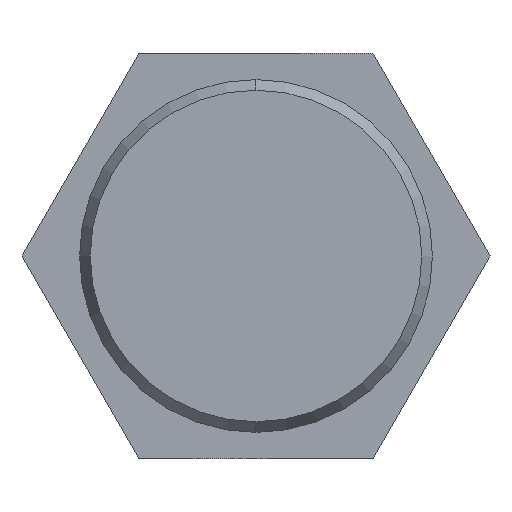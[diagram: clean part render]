
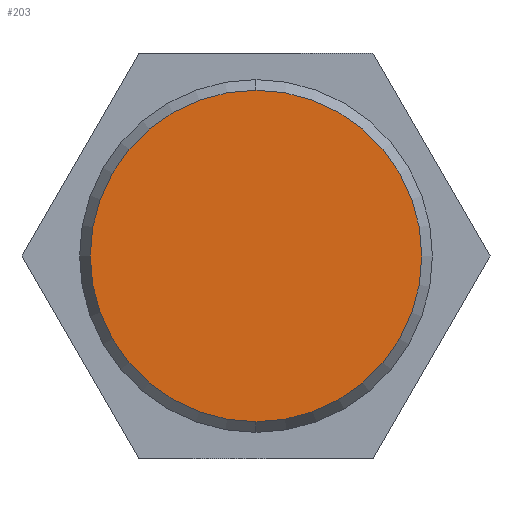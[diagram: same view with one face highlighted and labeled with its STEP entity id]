
A CAD part, left-side view. The second image highlights one B-rep face of the part: STEP entity #203.
In plain terms, the highlighted planar face has unit normal (-1, 0, 0).
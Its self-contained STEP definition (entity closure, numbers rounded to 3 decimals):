
#7 = CARTESIAN_POINT ( 'NONE',  ( 0., 0., 0. ) ) ;
#28 = CARTESIAN_POINT ( 'NONE',  ( 0., 0., 9. ) ) ;
#64 = DIRECTION ( 'NONE',  ( -1., 0., 0. ) ) ;
#83 = DIRECTION ( 'NONE',  ( 0., 0., -1. ) ) ;
#92 = PLANE ( 'NONE',  #590 ) ;
#106 = CARTESIAN_POINT ( 'NONE',  ( 0., 0., 0. ) ) ;
#144 = DIRECTION ( 'NONE',  ( 0., 0., 1. ) ) ;
#163 = CIRCLE ( 'NONE', #504, 9. ) ;
#203 = ADVANCED_FACE ( 'NONE', ( #498 ), #92, .T. ) ;
#214 = ORIENTED_EDGE ( 'NONE', *, *, #491, .F. ) ;
#232 = VERTEX_POINT ( 'NONE', #457 ) ;
#283 = EDGE_LOOP ( 'NONE', ( #353, #214 ) ) ;
#353 = ORIENTED_EDGE ( 'NONE', *, *, #402, .F. ) ;
#374 = DIRECTION ( 'NONE',  ( 1., 0., 0. ) ) ;
#402 = EDGE_CURVE ( 'NONE', #232, #573, #404, .T. ) ;
#404 = CIRCLE ( 'NONE', #426, 9. ) ;
#426 = AXIS2_PLACEMENT_3D ( 'NONE', #106, #374, #83 ) ;
#457 = CARTESIAN_POINT ( 'NONE',  ( 0., 0., -9. ) ) ;
#491 = EDGE_CURVE ( 'NONE', #573, #232, #163, .T. ) ;
#498 = FACE_OUTER_BOUND ( 'NONE', #283, .T. ) ;
#504 = AXIS2_PLACEMENT_3D ( 'NONE', #589, #592, #601 ) ;
#573 = VERTEX_POINT ( 'NONE', #28 ) ;
#589 = CARTESIAN_POINT ( 'NONE',  ( 0., 0., 0. ) ) ;
#590 = AXIS2_PLACEMENT_3D ( 'NONE', #7, #64, #144 ) ;
#592 = DIRECTION ( 'NONE',  ( 1., 0., 0. ) ) ;
#601 = DIRECTION ( 'NONE',  ( 0., 0., -1. ) ) ;
